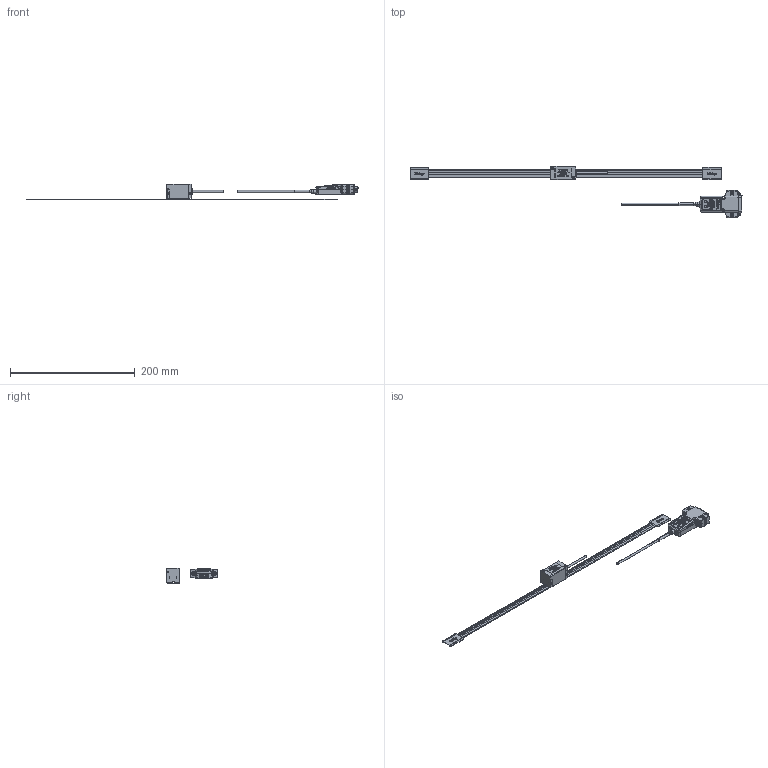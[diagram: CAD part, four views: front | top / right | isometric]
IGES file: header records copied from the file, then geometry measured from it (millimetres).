
Start section: Elysium IGES Interface
Global section: file name: 85H\\Utsu119s\kiyo_cad\data\3D\ABS ST1300\HP宖嵹梡_201708\ST1300-E僞僀僾\ST1300-400E.igs; native system: Creo Elements/Direct Modeling 18.1B  29-Sep-2012; preprocessor: Creo Element/Direct IGES_3D V2.2; author: Unknown; organization: Unknown; date: 20180227.102527; units: millimetre
Bounding box: 533.1 x 83 x 25.45 mm (x, y, z)
Volume: 23691.2 mm3; surface area: 31199.3 mm2
Topology: 3 solids, 6 shells, 3200 faces, 8942 edges, 5912 vertices
Faces by surface type: bspline 3200
